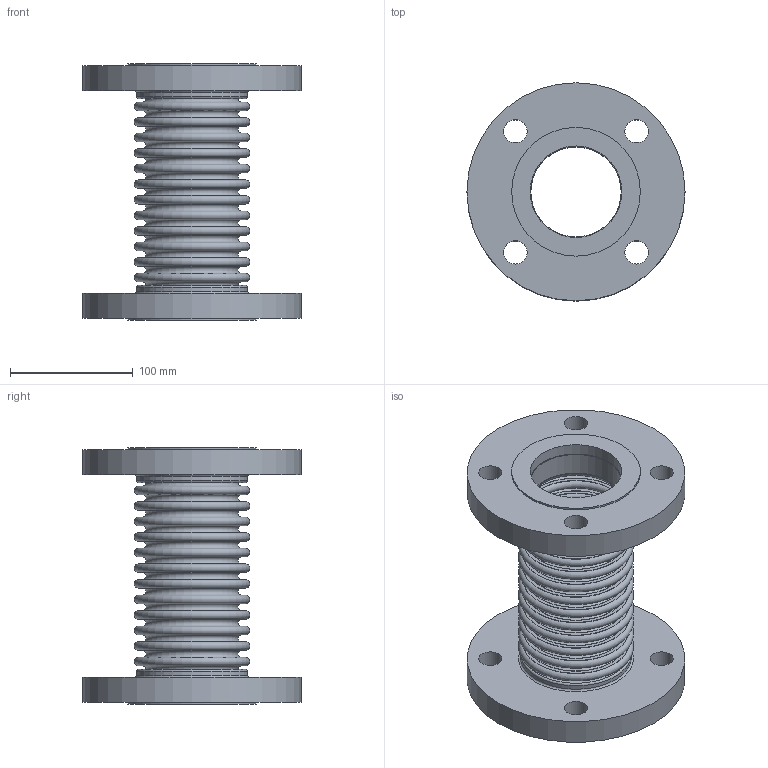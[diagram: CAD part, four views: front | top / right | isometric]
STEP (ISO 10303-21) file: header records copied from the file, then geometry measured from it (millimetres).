
FILE_DESCRIPTION(/* description */ ('EXPANSION JOINT,SINGLE, FLANGED ENDS,2 1/2 INCH NOMINAL','CAx-IF Rec.Pracs.---Representation and Presentation of Product Manufacturing Information (PMI)---4.0---2014-10-13'),/* implementation_level */ '2;1');
FILE_NAME(/* name */ 'US-02.5-12-300L-FLANGED ENDS.stp',/* time_stamp */ '2026-07-31T16:37:21-05:00',/* author */ ('Guadalupe'),/* organization */ (''),/* preprocessor_version */ 'ST-DEVELOPER v20.1',/* originating_system */ 'Autodesk Inventor 2026',/* authorisation */ '');
FILE_SCHEMA (('AP242_MANAGED_MODEL_BASED_3D_ENGINEERING_MIM_LF { 1 0 10303 442 2 1 4 }'));
Length unit declared in the file: inch
Products named in the file (3): 02.5-300L; 02.5-300L-02; 02.5-300L-01
Assembly tree (3 placements, depth 2):
  02.5-300L
    02.5-300L-02  x2
    02.5-300L-01
Bounding box: 177.8 x 177.8 x 209.3 mm (x, y, z)
Volume: 889627.3 mm3; surface area: 312447.7 mm2
Topology: 5 solids, 5 shells, 136 faces, 222 edges, 148 vertices
Faces by surface type: plane 62, torus 54, cylinder 20
Full cylindrical faces by diameter (mm): 19.05 x8, 73.66 x2, 74.676 x2, 74.879 x2, 90.424 x2, 104.902 x2, 177.8 x2
Entity records: 3138 total; most frequent: DIRECTION 654, CARTESIAN_POINT 465, ORIENTED_EDGE 384, AXIS2_PLACEMENT_3D 321, EDGE_CURVE 192, EDGE_LOOP 188, CIRCLE 180, VERTEX_POINT 128
